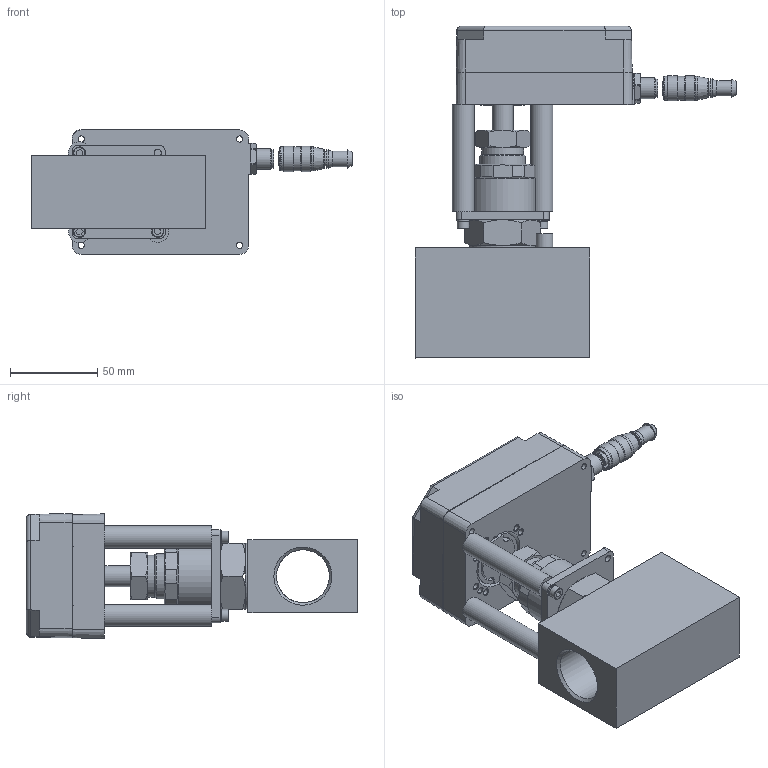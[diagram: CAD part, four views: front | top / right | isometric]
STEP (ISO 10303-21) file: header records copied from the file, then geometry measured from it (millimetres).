
FILE_DESCRIPTION (( 'STEP AP203' ), '1' );
FILE_NAME ('#M-Series Assembly w. NBSSFNS16 (Client Copy).STEP', '2020-09-02T15:50:27', ( 'Technician #5' ), ( '' ), 'SwSTEP 2.0', 'SolidWorks 2020', '' );
FILE_SCHEMA (( 'CONFIG_CONTROL_DESIGN' ));
Length unit declared in the file: inch
Products named in the file (13): 1106B-cast___; 1162C; 1107-cast___; 1162A; 1110-1 Drive Wheel (thicker top); Screw 8-32; Brass Washer Stamped; 1174B Valve lever; BSNPLN-Q216; NBSS-FNS16-0R_1; Turck-Receptacle; #M-Series Assembly w. NBSSFNS16 (Client Copy); Turck Cable
Assembly tree (16 placements, depth 2):
  #M-Series Assembly w. NBSSFNS16 (Client Copy)
    1106B-cast___
    1107-cast___
    1110-1 Drive Wheel (thicker top)
    Brass Washer Stamped
    BSNPLN-Q216
    Turck-Receptacle
    Turck Cable
    1162C  x3
    1162A
    Screw 8-32  x3
    1174B Valve lever
    NBSS-FNS16-0R_1
Bounding box: 184.12 x 190.13 x 71.52 mm (x, y, z)
Volume: 151768.5 mm3; surface area: 135022.3 mm2
Topology: 18 solids, 25 shells, 874 faces, 2200 edges, 1441 vertices
Faces by surface type: plane 340, cylinder 299, cone 202, torus 21, bspline 12
Full cylindrical faces by diameter (mm): 0.762 x5, 1.016 x5, 2.458 x2, 3.155 x1, 3.175 x1, 3.556 x6, 3.568 x14, 3.569 x7, 4.216 x4, 4.763 x3, 4.914 x4, 5.08 x1, 5.41 x4, 6.35 x1, 6.858 x3, 6.985 x3, 7 x2, 7.366 x2, 8 x3, 8.1 x1, 8.3 x1, 8.8 x1, 9 x1, 9.4 x1, 9.5 x3, 9.55 x1, 9.6 x1, 9.7 x1, 9.9 x1, 10 x2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
Entity records: 29212 total; most frequent: CARTESIAN_POINT 8982, DIRECTION 3793, ORIENTED_EDGE 3685, EDGE_CURVE 1863, AXIS2_PLACEMENT_3D 1486, VERTEX_POINT 1314, EDGE_LOOP 1123, FACE_OUTER_BOUND 941
